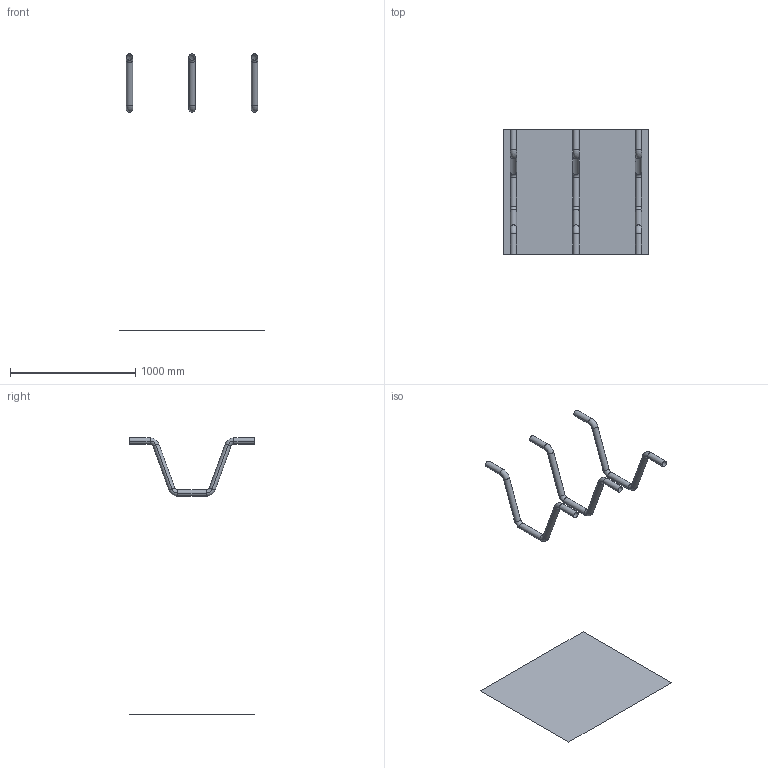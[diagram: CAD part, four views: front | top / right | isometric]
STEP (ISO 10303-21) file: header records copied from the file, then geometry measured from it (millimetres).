
FILE_DESCRIPTION(('CATIA V5 STEP Exchange'),'2;1');
FILE_NAME('C:\_Andres\UNIVERSIDAD\IQS\ASIGNATURAS\DAO\EXF\EXF-16172c\2inicio\Icart_Martori_Ej08_v16.stp','2017-03-05T21:54:52+00:00',('none'),('none'),'CATIA Version 5-6 Release 2014 SP1 HF18','CATIA V5 STEP AP203','none');
FILE_SCHEMA(('CONFIG_CONTROL_DESIGN'));
Length unit declared in the file: millimetre
Products named in the file (1): Icart_Martori_Ej08_v16
Bounding box: 1160 x 1000 x 2209 mm (x, y, z)
Surface area: 1889667.4 mm2 (no closed solid volume)
Topology: 0 solids, 4 shells, 55 faces, 118 edges, 64 vertices
Faces by surface type: cylinder 30, torus 24, plane 1
Entity records: 1283 total; most frequent: ORIENTED_EDGE 220, CARTESIAN_POINT 208, DIRECTION 168, EDGE_CURVE 118, AXIS2_PLACEMENT_3D 110, CIRCLE 84, VERTEX_POINT 64, ADVANCED_FACE 55
